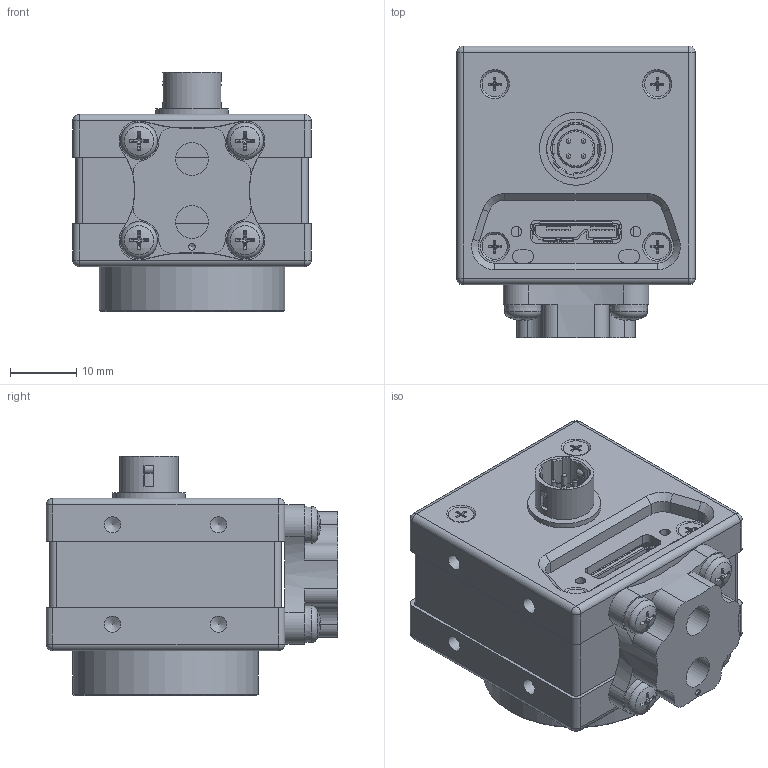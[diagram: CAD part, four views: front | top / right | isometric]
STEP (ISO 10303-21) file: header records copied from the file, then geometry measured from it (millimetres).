
FILE_DESCRIPTION(/* description */ (''),/* implementation_level */ '2;1');
FILE_NAME(/* name */ 'D:\HiDrive\1_Konstruktion\1_KUNDEN\TIS\154-13_MC36-Camera (Opto Precision)\154-13-4-00-00_MC36 Cam-10MP-CMOS-USB3-4PHirose\IPT und STEP Ableitungen für Kunden\154-13-42\154-13-42_(MC36_USB3_4PHiro_C-FP_18,1_ER-11,7).stp',/* time_stamp */ '2017-10-24T20:38:42+02:00',/* author */ ('khw'),/* organization */ (''),/* preprocessor_version */ 'ST-DEVELOPER v16.5',/* originating_system */ 'Autodesk Inventor 2017',/* authorisation */ '');
FILE_SCHEMA (('AUTOMOTIVE_DESIGN { 1 0 10303 214 3 1 1 }'));
Length unit declared in the file: millimetre
Products named in the file (4): 154-13-42_(MC36_USB3_4PHiro_C-FP_18,1_ER-11,7); 154-13-42_(MC36_USB3_4PHiro_C-FP_18,1_ER-11,7)_1; 154-13-1-00-03_(Tripod Adapter_OP34-240-007-C-FZ-01); ISO 7045 - M3 x 6 - 4.8 - H
Assembly tree (6 placements, depth 2):
  154-13-42_(MC36_USB3_4PHiro_C-FP_18,1_ER-11,7)
    154-13-42_(MC36_USB3_4PHiro_C-FP_18,1_ER-11,7)_1
    154-13-1-00-03_(Tripod Adapter_OP34-240-007-C-FZ-01)
    ISO 7045 - M3 x 6 - 4.8 - H  x4
Bounding box: 36 x 44 x 36.05 mm (x, y, z)
Volume: 18330.7 mm3; surface area: 18155.9 mm2
Topology: 7 solids, 8 shells, 1246 faces, 3434 edges, 2233 vertices
Faces by surface type: plane 640, cylinder 394, cone 154, torus 42, sphere 12, bspline 4
Full cylindrical faces by diameter (mm): 0.7 x5, 0.8 x6, 1 x1, 1.1 x4, 1.567 x6, 1.755 x4, 2 x4, 2.3 x4, 2.459 x16, 2.729 x4, 3 x4, 3.4 x4, 3.8 x4, 4 x4, 4.917 x1, 4.978 x1, 5.6 x1, 5.7 x1, 6.55 x1, 6.6 x1, 8 x2, 8.85 x1, 11 x2, 12 x1, 20.2 x1, 21.9 x1, 22 x2, 24.536 x1, 25.8 x1, 26 x1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
Entity records: 40156 total; most frequent: CARTESIAN_POINT 9644, DIRECTION 6226, ORIENTED_EDGE 5962, EDGE_CURVE 2981, AXIS2_PLACEMENT_3D 2254, VERTEX_POINT 2018, LINE 1718, VECTOR 1718
